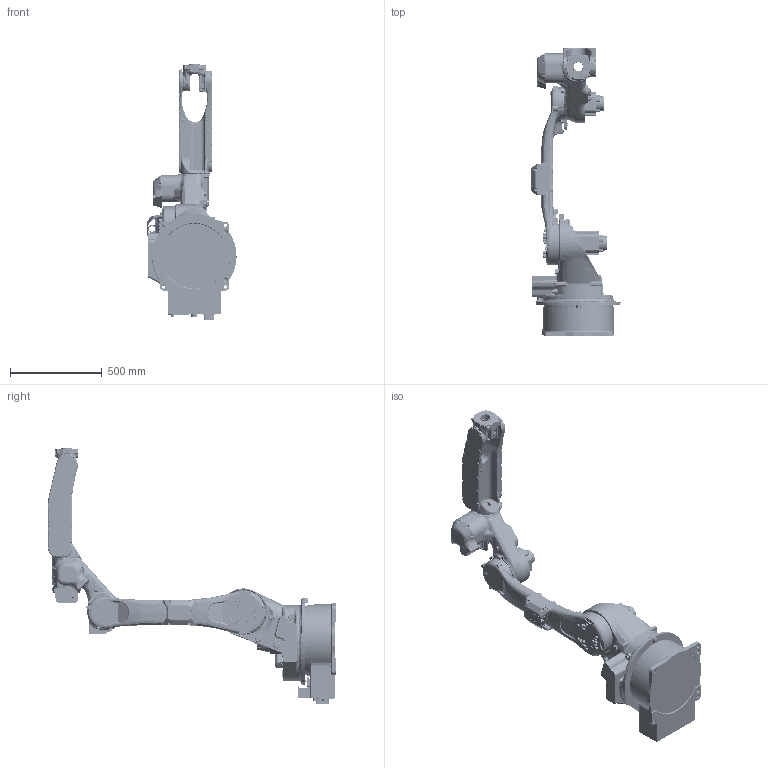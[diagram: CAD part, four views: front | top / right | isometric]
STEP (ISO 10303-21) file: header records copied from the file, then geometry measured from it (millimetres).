
FILE_DESCRIPTION(/* description */ (''),/* implementation_level */ '2;1');
FILE_NAME(/* name */ 'GP25.stp',/* time_stamp */ '2017-06-30T10:43:12+02:00',/* author */ (''),/* organization */ (''),/* preprocessor_version */ 'ST-DEVELOPER v16',/* originating_system */ 'SIEMENS PLM Software NX 10.0',/* authorisation */ '');
FILE_SCHEMA (('AUTOMOTIVE_DESIGN { 1 0 10303 214 3 1 1 1 }'));
Products named in the file (8): _T_AXIS_SW0001; _B_AXIS_SW0001; _R_AXIS_SW0001; _U_AXIS_SW0001; _L_AXIS_SW0002; _S_AXIS_SW0001; _BASE_AXIS_SW0001; GP25
Assembly tree (7 placements, depth 2):
  GP25
    _BASE_AXIS_SW0001
    _S_AXIS_SW0001
    _L_AXIS_SW0002
    _U_AXIS_SW0001
    _R_AXIS_SW0001
    _B_AXIS_SW0001
    _T_AXIS_SW0001
Bounding box: 483.93 x 1568 x 1392.85 mm (x, y, z)
Volume: 82432779.5 mm3; surface area: 3558121.4 mm2
Topology: 7 solids, 7 shells, 6407 faces, 16190 edges, 9934 vertices
Faces by surface type: bspline 3785, plane 1945, torus 617, sphere 42, extrusion 18
Entity records: 655903 total; most frequent: CARTESIAN_POINT 545740, ORIENTED_EDGE 32218, EDGE_CURVE 16109, B_SPLINE_CURVE_WITH_KNOTS 12299, VERTEX_POINT 9925, DIRECTION 7439, EDGE_LOOP 6712, ADVANCED_FACE 6407
